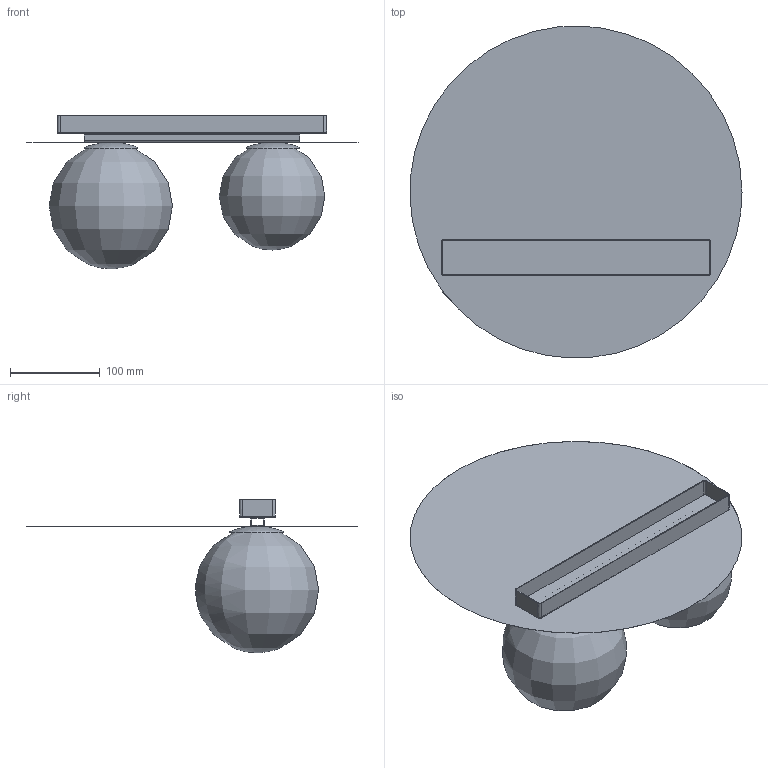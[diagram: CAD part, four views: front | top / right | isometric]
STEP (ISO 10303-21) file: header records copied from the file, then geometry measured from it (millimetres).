
FILE_DESCRIPTION ((), '1');
FILE_NAME ('C:\SIGMA\ARGON 2 KOŁO\ARGON 2 KOŁO.stp', '2026-04-15T12:47:43', ('Unknown'), ('Unknown'), 'HarmonyWare STEP v2.1.4', 'HarmonyWare Translators', '');
FILE_SCHEMA (('CONFIG_CONTROL_DESIGN'));
Length unit declared in the file: centimetre
Products named in the file (10): żarówka; klosz
Assembly tree (9 placements, depth 2):
  (unnamed)
    (unnamed)
    (unnamed)
    (unnamed)
    żarówka
    żarówka
    (unnamed)
    klosz
    (unnamed)
    klosz
Bounding box: 369.89 x 369.78 x 171.16 mm (x, y, z)
Volume: 2504317.7 mm3; surface area: 419878.3 mm2
Topology: 9 solids, 9 shells, 48 faces, 121 edges, 80 vertices
Faces by surface type: bspline 48
Entity records: 3682 total; most frequent: CARTESIAN_POINT 1672, ORIENTED_EDGE 218, EDGE_CURVE 109, PERSON 98, ORGANIZATION 98, PERSON_AND_ORGANIZATION 98, VERTEX_POINT 80, B_SPLINE_CURVE_WITH_KNOTS 75
